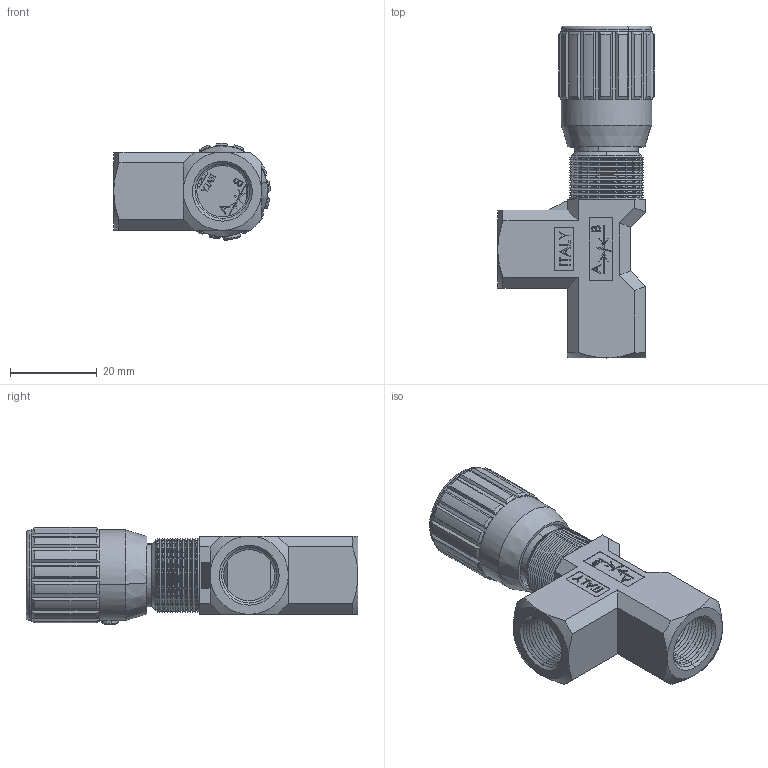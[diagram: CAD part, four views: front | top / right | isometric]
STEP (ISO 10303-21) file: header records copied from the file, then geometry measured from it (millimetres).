
FILE_DESCRIPTION (( 'STEP AP214' ), '1' );
FILE_NAME ('252-2-14 VOLANTINO F-F.STEP', '2015-05-15T15:43:00', ( '' ), ( '' ), 'SwSTEP 2.0', 'SolidWorks 2014', '' );
FILE_SCHEMA (( 'AUTOMOTIVE_DESIGN' ));
Length unit declared in the file: millimetre
Products named in the file (1): 252-2-14 VOLANTINO F-F
Bounding box: 36 x 76.3 x 22.36 mm (x, y, z)
Surface area: 8801.3 mm2 (no closed solid volume)
Topology: 0 solids, 34 shells, 521 faces, 1797 edges, 1251 vertices
Faces by surface type: plane 266, cone 170, cylinder 58, bspline 25, torus 2
Entity records: 27162 total; most frequent: CARTESIAN_POINT 6289, DIRECTION 3018, ORIENTED_EDGE 2923, EDGE_CURVE 1797, VERTEX_POINT 1251, VECTOR 1186, LINE 1186, AXIS2_PLACEMENT_3D 916
